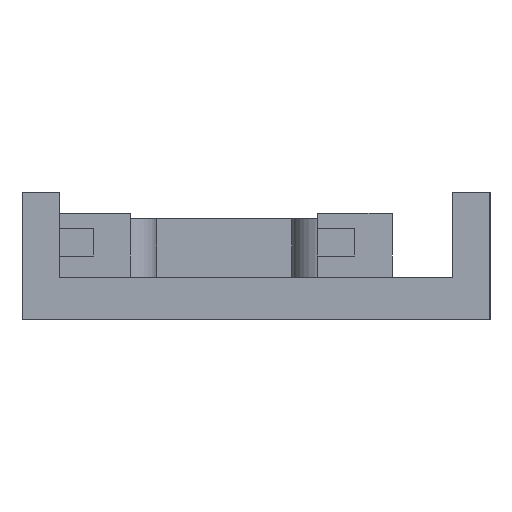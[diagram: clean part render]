
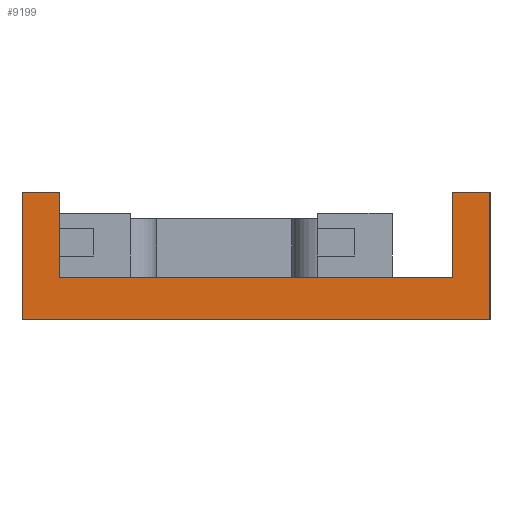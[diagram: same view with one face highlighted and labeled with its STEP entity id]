
A CAD part, left-side view. The second image highlights one B-rep face of the part: STEP entity #9199.
In plain terms, the highlighted planar face has unit normal (-1, 0, 0).
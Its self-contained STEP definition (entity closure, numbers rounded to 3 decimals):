
#22 = VERTEX_POINT('',#23);
#23 = CARTESIAN_POINT('',(-51.5,-1.1,0.));
#32 = PLANE('',#33);
#33 = AXIS2_PLACEMENT_3D('',#34,#35,#36);
#34 = CARTESIAN_POINT('',(-36.613,-1.1,0.));
#35 = DIRECTION('',(-0.,1.,0.));
#36 = DIRECTION('',(0.,0.,1.));
#44 = PLANE('',#45);
#45 = AXIS2_PLACEMENT_3D('',#46,#47,#48);
#46 = CARTESIAN_POINT('',(-36.613,-1.1,0.));
#47 = DIRECTION('',(0.,0.,1.));
#48 = DIRECTION('',(1.,0.,-0.));
#56 = EDGE_CURVE('',#57,#22,#59,.T.);
#57 = VERTEX_POINT('',#58);
#58 = CARTESIAN_POINT('',(-51.5,-1.1,12.));
#59 = SURFACE_CURVE('',#60,(#64,#71),.PCURVE_S1.);
#60 = LINE('',#61,#62);
#61 = CARTESIAN_POINT('',(-51.5,-1.1,12.));
#62 = VECTOR('',#63,1.);
#63 = DIRECTION('',(0.,0.,-1.));
#64 = PCURVE('',#32,#65);
#65 = DEFINITIONAL_REPRESENTATION('',(#66),#70);
#66 = LINE('',#67,#68);
#67 = CARTESIAN_POINT('',(12.,-14.888));
#68 = VECTOR('',#69,1.);
#69 = DIRECTION('',(-1.,0.));
#70 = ( GEOMETRIC_REPRESENTATION_CONTEXT(2) 
PARAMETRIC_REPRESENTATION_CONTEXT() REPRESENTATION_CONTEXT('2D SPACE',''
  ) );
#71 = PCURVE('',#72,#77);
#72 = PLANE('',#73);
#73 = AXIS2_PLACEMENT_3D('',#74,#75,#76);
#74 = CARTESIAN_POINT('',(-51.5,-1.1,0.));
#75 = DIRECTION('',(1.,0.,-0.));
#76 = DIRECTION('',(0.,0.,1.));
#77 = DEFINITIONAL_REPRESENTATION('',(#78),#82);
#78 = LINE('',#79,#80);
#79 = CARTESIAN_POINT('',(12.,0.));
#80 = VECTOR('',#81,1.);
#81 = DIRECTION('',(-1.,0.));
#82 = ( GEOMETRIC_REPRESENTATION_CONTEXT(2) 
PARAMETRIC_REPRESENTATION_CONTEXT() REPRESENTATION_CONTEXT('2D SPACE',''
  ) );
#100 = PLANE('',#101);
#101 = AXIS2_PLACEMENT_3D('',#102,#103,#104);
#102 = CARTESIAN_POINT('',(-36.613,-1.1,12.));
#103 = DIRECTION('',(0.,0.,1.));
#104 = DIRECTION('',(1.,0.,-0.));
#156 = PLANE('',#157);
#157 = AXIS2_PLACEMENT_3D('',#158,#159,#160);
#158 = CARTESIAN_POINT('',(-51.5,-1.1,4.));
#159 = DIRECTION('',(0.,0.,1.));
#160 = DIRECTION('',(1.,0.,-0.));
#198 = VERTEX_POINT('',#199);
#199 = CARTESIAN_POINT('',(-51.5,42.9,0.));
#215 = PLANE('',#216);
#216 = AXIS2_PLACEMENT_3D('',#217,#218,#219);
#217 = CARTESIAN_POINT('',(-36.613,42.9,0.));
#218 = DIRECTION('',(-0.,1.,0.));
#219 = DIRECTION('',(0.,0.,1.));
#227 = EDGE_CURVE('',#22,#198,#228,.T.);
#228 = SURFACE_CURVE('',#229,(#233,#240),.PCURVE_S1.);
#229 = LINE('',#230,#231);
#230 = CARTESIAN_POINT('',(-51.5,-1.1,0.));
#231 = VECTOR('',#232,1.);
#232 = DIRECTION('',(-0.,1.,0.));
#233 = PCURVE('',#44,#234);
#234 = DEFINITIONAL_REPRESENTATION('',(#235),#239);
#235 = LINE('',#236,#237);
#236 = CARTESIAN_POINT('',(-14.888,0.));
#237 = VECTOR('',#238,1.);
#238 = DIRECTION('',(0.,1.));
#239 = ( GEOMETRIC_REPRESENTATION_CONTEXT(2) 
PARAMETRIC_REPRESENTATION_CONTEXT() REPRESENTATION_CONTEXT('2D SPACE',''
  ) );
#240 = PCURVE('',#72,#241);
#241 = DEFINITIONAL_REPRESENTATION('',(#242),#246);
#242 = LINE('',#243,#244);
#243 = CARTESIAN_POINT('',(0.,0.));
#244 = VECTOR('',#245,1.);
#245 = DIRECTION('',(0.,-1.));
#246 = ( GEOMETRIC_REPRESENTATION_CONTEXT(2) 
PARAMETRIC_REPRESENTATION_CONTEXT() REPRESENTATION_CONTEXT('2D SPACE',''
  ) );
#9001 = EDGE_CURVE('',#198,#9002,#9004,.T.);
#9002 = VERTEX_POINT('',#9003);
#9003 = CARTESIAN_POINT('',(-51.5,42.9,12.));
#9004 = SURFACE_CURVE('',#9005,(#9009,#9016),.PCURVE_S1.);
#9005 = LINE('',#9006,#9007);
#9006 = CARTESIAN_POINT('',(-51.5,42.9,0.));
#9007 = VECTOR('',#9008,1.);
#9008 = DIRECTION('',(0.,0.,1.));
#9009 = PCURVE('',#215,#9010);
#9010 = DEFINITIONAL_REPRESENTATION('',(#9011),#9015);
#9011 = LINE('',#9012,#9013);
#9012 = CARTESIAN_POINT('',(0.,-14.888));
#9013 = VECTOR('',#9014,1.);
#9014 = DIRECTION('',(1.,0.));
#9015 = ( GEOMETRIC_REPRESENTATION_CONTEXT(2) 
PARAMETRIC_REPRESENTATION_CONTEXT() REPRESENTATION_CONTEXT('2D SPACE',''
  ) );
#9016 = PCURVE('',#72,#9017);
#9017 = DEFINITIONAL_REPRESENTATION('',(#9018),#9022);
#9018 = LINE('',#9019,#9020);
#9019 = CARTESIAN_POINT('',(0.,-44.));
#9020 = VECTOR('',#9021,1.);
#9021 = DIRECTION('',(1.,0.));
#9022 = ( GEOMETRIC_REPRESENTATION_CONTEXT(2) 
PARAMETRIC_REPRESENTATION_CONTEXT() REPRESENTATION_CONTEXT('2D SPACE',''
  ) );
#9040 = PLANE('',#9041);
#9041 = AXIS2_PLACEMENT_3D('',#9042,#9043,#9044);
#9042 = CARTESIAN_POINT('',(-36.613,39.4,12.));
#9043 = DIRECTION('',(0.,0.,1.));
#9044 = DIRECTION('',(1.,0.,-0.));
#9127 = EDGE_CURVE('',#57,#9128,#9130,.T.);
#9128 = VERTEX_POINT('',#9129);
#9129 = CARTESIAN_POINT('',(-51.5,2.4,12.));
#9130 = SURFACE_CURVE('',#9131,(#9135,#9142),.PCURVE_S1.);
#9131 = LINE('',#9132,#9133);
#9132 = CARTESIAN_POINT('',(-51.5,-1.1,12.));
#9133 = VECTOR('',#9134,1.);
#9134 = DIRECTION('',(-0.,1.,0.));
#9135 = PCURVE('',#100,#9136);
#9136 = DEFINITIONAL_REPRESENTATION('',(#9137),#9141);
#9137 = LINE('',#9138,#9139);
#9138 = CARTESIAN_POINT('',(-14.888,0.));
#9139 = VECTOR('',#9140,1.);
#9140 = DIRECTION('',(0.,1.));
#9141 = ( GEOMETRIC_REPRESENTATION_CONTEXT(2) 
PARAMETRIC_REPRESENTATION_CONTEXT() REPRESENTATION_CONTEXT('2D SPACE',''
  ) );
#9142 = PCURVE('',#72,#9143);
#9143 = DEFINITIONAL_REPRESENTATION('',(#9144),#9148);
#9144 = LINE('',#9145,#9146);
#9145 = CARTESIAN_POINT('',(12.,0.));
#9146 = VECTOR('',#9147,1.);
#9147 = DIRECTION('',(0.,-1.));
#9148 = ( GEOMETRIC_REPRESENTATION_CONTEXT(2) 
PARAMETRIC_REPRESENTATION_CONTEXT() REPRESENTATION_CONTEXT('2D SPACE',''
  ) );
#9188 = PLANE('',#9189);
#9189 = AXIS2_PLACEMENT_3D('',#9190,#9191,#9192);
#9190 = CARTESIAN_POINT('',(-36.613,2.4,4.));
#9191 = DIRECTION('',(-0.,1.,0.));
#9192 = DIRECTION('',(0.,0.,1.));
#9199 = ADVANCED_FACE('',(#9200),#72,.F.);
#9200 = FACE_BOUND('',#9201,.F.);
#9201 = EDGE_LOOP('',(#9202,#9203,#9204,#9227,#9255,#9278,#9299,#9300));
#9202 = ORIENTED_EDGE('',*,*,#227,.T.);
#9203 = ORIENTED_EDGE('',*,*,#9001,.T.);
#9204 = ORIENTED_EDGE('',*,*,#9205,.F.);
#9205 = EDGE_CURVE('',#9206,#9002,#9208,.T.);
#9206 = VERTEX_POINT('',#9207);
#9207 = CARTESIAN_POINT('',(-51.5,39.4,12.));
#9208 = SURFACE_CURVE('',#9209,(#9213,#9220),.PCURVE_S1.);
#9209 = LINE('',#9210,#9211);
#9210 = CARTESIAN_POINT('',(-51.5,39.4,12.));
#9211 = VECTOR('',#9212,1.);
#9212 = DIRECTION('',(-0.,1.,0.));
#9213 = PCURVE('',#72,#9214);
#9214 = DEFINITIONAL_REPRESENTATION('',(#9215),#9219);
#9215 = LINE('',#9216,#9217);
#9216 = CARTESIAN_POINT('',(12.,-40.5));
#9217 = VECTOR('',#9218,1.);
#9218 = DIRECTION('',(0.,-1.));
#9219 = ( GEOMETRIC_REPRESENTATION_CONTEXT(2) 
PARAMETRIC_REPRESENTATION_CONTEXT() REPRESENTATION_CONTEXT('2D SPACE',''
  ) );
#9220 = PCURVE('',#9040,#9221);
#9221 = DEFINITIONAL_REPRESENTATION('',(#9222),#9226);
#9222 = LINE('',#9223,#9224);
#9223 = CARTESIAN_POINT('',(-14.888,0.));
#9224 = VECTOR('',#9225,1.);
#9225 = DIRECTION('',(0.,1.));
#9226 = ( GEOMETRIC_REPRESENTATION_CONTEXT(2) 
PARAMETRIC_REPRESENTATION_CONTEXT() REPRESENTATION_CONTEXT('2D SPACE',''
  ) );
#9227 = ORIENTED_EDGE('',*,*,#9228,.F.);
#9228 = EDGE_CURVE('',#9229,#9206,#9231,.T.);
#9229 = VERTEX_POINT('',#9230);
#9230 = CARTESIAN_POINT('',(-51.5,39.4,4.));
#9231 = SURFACE_CURVE('',#9232,(#9236,#9243),.PCURVE_S1.);
#9232 = LINE('',#9233,#9234);
#9233 = CARTESIAN_POINT('',(-51.5,39.4,4.));
#9234 = VECTOR('',#9235,1.);
#9235 = DIRECTION('',(0.,0.,1.));
#9236 = PCURVE('',#72,#9237);
#9237 = DEFINITIONAL_REPRESENTATION('',(#9238),#9242);
#9238 = LINE('',#9239,#9240);
#9239 = CARTESIAN_POINT('',(4.,-40.5));
#9240 = VECTOR('',#9241,1.);
#9241 = DIRECTION('',(1.,0.));
#9242 = ( GEOMETRIC_REPRESENTATION_CONTEXT(2) 
PARAMETRIC_REPRESENTATION_CONTEXT() REPRESENTATION_CONTEXT('2D SPACE',''
  ) );
#9243 = PCURVE('',#9244,#9249);
#9244 = PLANE('',#9245);
#9245 = AXIS2_PLACEMENT_3D('',#9246,#9247,#9248);
#9246 = CARTESIAN_POINT('',(-51.5,39.4,4.));
#9247 = DIRECTION('',(-0.,1.,0.));
#9248 = DIRECTION('',(0.,0.,1.));
#9249 = DEFINITIONAL_REPRESENTATION('',(#9250),#9254);
#9250 = LINE('',#9251,#9252);
#9251 = CARTESIAN_POINT('',(0.,0.));
#9252 = VECTOR('',#9253,1.);
#9253 = DIRECTION('',(1.,0.));
#9254 = ( GEOMETRIC_REPRESENTATION_CONTEXT(2) 
PARAMETRIC_REPRESENTATION_CONTEXT() REPRESENTATION_CONTEXT('2D SPACE',''
  ) );
#9255 = ORIENTED_EDGE('',*,*,#9256,.F.);
#9256 = EDGE_CURVE('',#9257,#9229,#9259,.T.);
#9257 = VERTEX_POINT('',#9258);
#9258 = CARTESIAN_POINT('',(-51.5,2.4,4.));
#9259 = SURFACE_CURVE('',#9260,(#9264,#9271),.PCURVE_S1.);
#9260 = LINE('',#9261,#9262);
#9261 = CARTESIAN_POINT('',(-51.5,-1.1,4.));
#9262 = VECTOR('',#9263,1.);
#9263 = DIRECTION('',(-0.,1.,0.));
#9264 = PCURVE('',#72,#9265);
#9265 = DEFINITIONAL_REPRESENTATION('',(#9266),#9270);
#9266 = LINE('',#9267,#9268);
#9267 = CARTESIAN_POINT('',(4.,0.));
#9268 = VECTOR('',#9269,1.);
#9269 = DIRECTION('',(0.,-1.));
#9270 = ( GEOMETRIC_REPRESENTATION_CONTEXT(2) 
PARAMETRIC_REPRESENTATION_CONTEXT() REPRESENTATION_CONTEXT('2D SPACE',''
  ) );
#9271 = PCURVE('',#156,#9272);
#9272 = DEFINITIONAL_REPRESENTATION('',(#9273),#9277);
#9273 = LINE('',#9274,#9275);
#9274 = CARTESIAN_POINT('',(0.,0.));
#9275 = VECTOR('',#9276,1.);
#9276 = DIRECTION('',(0.,1.));
#9277 = ( GEOMETRIC_REPRESENTATION_CONTEXT(2) 
PARAMETRIC_REPRESENTATION_CONTEXT() REPRESENTATION_CONTEXT('2D SPACE',''
  ) );
#9278 = ORIENTED_EDGE('',*,*,#9279,.T.);
#9279 = EDGE_CURVE('',#9257,#9128,#9280,.T.);
#9280 = SURFACE_CURVE('',#9281,(#9285,#9292),.PCURVE_S1.);
#9281 = LINE('',#9282,#9283);
#9282 = CARTESIAN_POINT('',(-51.5,2.4,4.));
#9283 = VECTOR('',#9284,1.);
#9284 = DIRECTION('',(0.,0.,1.));
#9285 = PCURVE('',#72,#9286);
#9286 = DEFINITIONAL_REPRESENTATION('',(#9287),#9291);
#9287 = LINE('',#9288,#9289);
#9288 = CARTESIAN_POINT('',(4.,-3.5));
#9289 = VECTOR('',#9290,1.);
#9290 = DIRECTION('',(1.,0.));
#9291 = ( GEOMETRIC_REPRESENTATION_CONTEXT(2) 
PARAMETRIC_REPRESENTATION_CONTEXT() REPRESENTATION_CONTEXT('2D SPACE',''
  ) );
#9292 = PCURVE('',#9188,#9293);
#9293 = DEFINITIONAL_REPRESENTATION('',(#9294),#9298);
#9294 = LINE('',#9295,#9296);
#9295 = CARTESIAN_POINT('',(0.,-14.888));
#9296 = VECTOR('',#9297,1.);
#9297 = DIRECTION('',(1.,0.));
#9298 = ( GEOMETRIC_REPRESENTATION_CONTEXT(2) 
PARAMETRIC_REPRESENTATION_CONTEXT() REPRESENTATION_CONTEXT('2D SPACE',''
  ) );
#9299 = ORIENTED_EDGE('',*,*,#9127,.F.);
#9300 = ORIENTED_EDGE('',*,*,#56,.T.);
